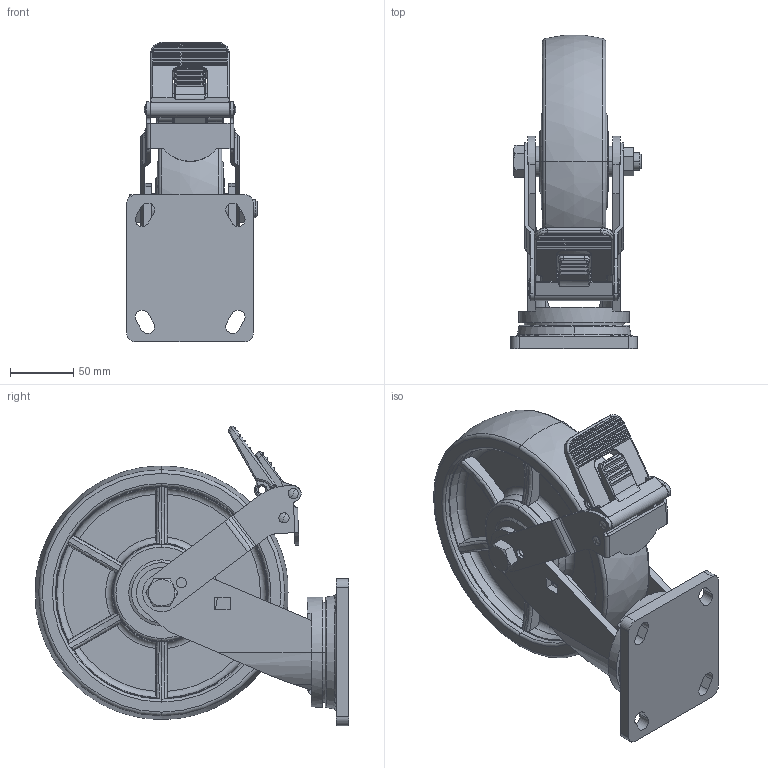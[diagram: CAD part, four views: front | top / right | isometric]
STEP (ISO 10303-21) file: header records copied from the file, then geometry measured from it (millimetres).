
FILE_DESCRIPTION((''),'2;1');
FILE_NAME('ASM0004_ASM','2020-07-08T',('lenovo'),(''),'PRO/ENGINEER BY PARAMETRIC TECHNOLOGY CORPORATION, 2010280','PRO/ENGINEER BY PARAMETRIC TECHNOLOGY CORPORATION, 2010280','');
FILE_SCHEMA(('CONFIG_CONTROL_DESIGN'));
Length unit declared in the file: millimetre
Products named in the file (15): PRT0242; PRT0243; 780F-33-; PRT0245; PRT0246; PRT0247; PRT0248; PRT0249; PRT0250; PRT0251; PRT0252; PRT0253; ASM0006_ASM; ASM0005_ASM; ASM0004_ASM
Assembly tree (16 placements, depth 4):
  ASM0004_ASM
    ASM0005_ASM
      ASM0006_ASM
        PRT0242
        PRT0243  x3
        780F-33-
        PRT0245
        PRT0246
        PRT0247
        PRT0248
        PRT0249
        PRT0250
        PRT0251
        PRT0252
        PRT0253
Bounding box: 103 x 247.17 x 236.46 mm (x, y, z)
Volume: 1332452 mm3; surface area: 253780.4 mm2
Topology: 14 solids, 14 shells, 634 faces, 1597 edges, 1010 vertices
Faces by surface type: plane 237, cylinder 192, torus 67, cone 66, bspline 61, sphere 11
Entity records: 23913 total; most frequent: CARTESIAN_POINT 8815, ORIENTED_EDGE 3148, DIRECTION 3057, EDGE_CURVE 1574, AXIS2_PLACEMENT_3D 1204, VERTEX_POINT 996, EDGE_LOOP 698, VECTOR 649
